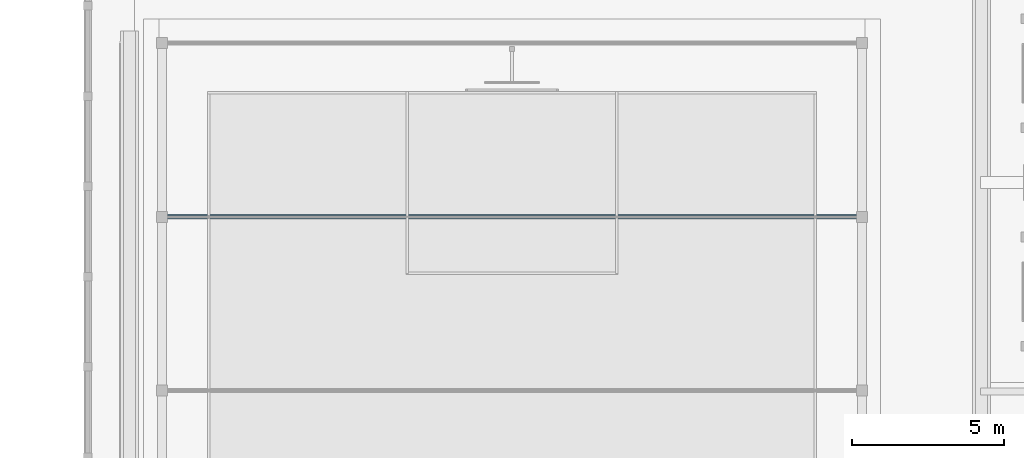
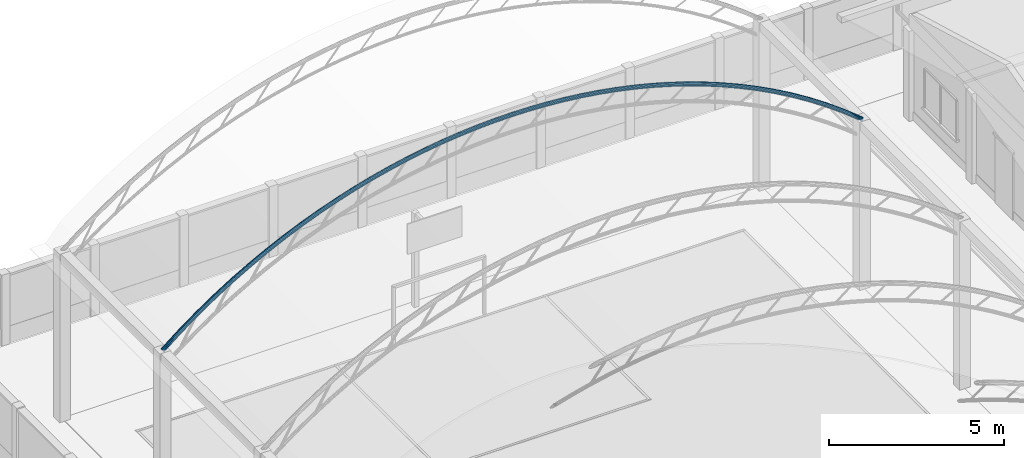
# One storey, part 30 of 177: 1 beam.
"""IFC4 building model written with IfcOpenShell, lengths in metres."""

from ifc_helpers import new_model, si_unit, origin, origin_with_axes, place, context, subcontext, project, spatial, triangles, element, save


model = new_model("IFC4")

# Units and contexts
model_context = context("Model", 3, precision=1e-05, world=origin_with_axes())
body_context = subcontext(model_context, "Body", "Model", "MODEL_VIEW")
ifc_project = project(units=[si_unit("LENGTHUNIT", "METRE"), si_unit("AREAUNIT", "SQUARE_METRE"), si_unit("VOLUMEUNIT", "CUBIC_METRE"), si_unit("PLANEANGLEUNIT", "RADIAN")], contexts=[model_context])

# Site, building, storey
site_placement = place(None, origin_with_axes())
site = spatial("IfcSite", under=ifc_project, at=site_placement, Name="Predio Los Mangos - Morales, San Martín", CompositionType="ELEMENT")
building_placement = place(site_placement, origin())
building = spatial("IfcBuilding", under=site, at=building_placement, Name="Hogar de Refugio Temporal", CompositionType="ELEMENT")
storey_placement = place(building_placement, origin())
storey = spatial("IfcBuildingStorey", under=building, at=storey_placement, Name="NIVEL 1 (NPT +0.00)", CompositionType="ELEMENT", Elevation=0.0)

# Beam
beam_placement = place(storey_placement, origin())
element("IfcBeam", 1, at=beam_placement, inside=storey, Name="arco", ObjectType="Viga", PredefinedType="BEAM", context=body_context, shape_type="Tessellation", body=[
    triangles([(3.4781, 121.3273, 5.9773), (3.462, 121.3017, 5.9973), (3.4562, 121.2667, 6.0046), (3.462, 121.2317, 5.9973), (3.4781, 121.206, 5.9773), (3.5, 121.1967, 5.95), (3.5219, 121.206, 5.9227), (3.538, 121.2317, 5.9027), (3.5438, 121.2667, 5.8954), (3.538, 121.3017, 5.9027), (3.5219, 121.3273, 5.9227), (3.5, 121.3367, 5.95), (4.0561, 121.3273, 6.4418), (4.0405, 121.3017, 6.4621), (4.0348, 121.2667, 6.4695), (4.0405, 121.2317, 6.4621), (4.0561, 121.206, 6.4418), (4.0775, 121.1967, 6.4141), (4.0989, 121.206, 6.3864), (4.1145, 121.2317, 6.3661), (4.1202, 121.2667, 6.3586), (4.1145, 121.3017, 6.3661), (4.0989, 121.3273, 6.3864), (4.0775, 121.3367, 6.4141), (4.6348, 121.3273, 6.8694), (4.6199, 121.3017, 6.8903), (4.6145, 121.2667, 6.8979), (4.6199, 121.2317, 6.8903), (4.6348, 121.206, 6.8694), (4.655, 121.1967, 6.8408), (4.6752, 121.206, 6.8123), (4.6901, 121.2317, 6.7914), (4.6955, 121.2667, 6.7837), (4.6901, 121.3017, 6.7914), (4.6752, 121.3273, 6.8123), (4.655, 121.3367, 6.8408), (5.2134, 121.3273, 7.2627), (5.1994, 121.3017, 7.2841), (5.1943, 121.2667, 7.292), (5.1994, 121.2317, 7.2841), (5.2134, 121.206, 7.2627), (5.2325, 121.1967, 7.2333), (5.2516, 121.206, 7.204), (5.2656, 121.2317, 7.1826), (5.2707, 121.2667, 7.1747), (5.2656, 121.3017, 7.1826), (5.2516, 121.3273, 7.204), (5.2325, 121.3367, 7.2333), (5.792, 121.3273, 7.6243), (5.7788, 121.3017, 7.6463), (5.774, 121.2667, 7.6543), (5.7788, 121.2317, 7.6463), (5.792, 121.206, 7.6243), (5.81, 121.1967, 7.5943), (5.828, 121.206, 7.5643), (5.8412, 121.2317, 7.5423), (5.846, 121.2667, 7.5343), (5.8412, 121.3017, 7.5423), (5.828, 121.3273, 7.5643), (5.81, 121.3367, 7.5943), (6.3706, 121.3273, 7.9565), (6.3583, 121.3017, 7.979), (6.3538, 121.2667, 7.9872), (6.3583, 121.2317, 7.979), (6.3706, 121.206, 7.9565), (6.3875, 121.1967, 7.9259), (6.4044, 121.206, 7.8952), (6.4167, 121.2317, 7.8727), (6.4212, 121.2667, 7.8645), (6.4167, 121.3017, 7.8727), (6.4044, 121.3273, 7.8952), (6.3875, 121.3367, 7.9259), (6.9493, 121.3273, 8.2611), (6.9377, 121.3017, 8.284), (6.9335, 121.2667, 8.2923), (6.9377, 121.2317, 8.284), (6.9493, 121.206, 8.2611), (6.965, 121.1967, 8.2298), (6.9807, 121.206, 8.1986), (6.9923, 121.2317, 8.1757), (6.9965, 121.2667, 8.1673), (6.9923, 121.3017, 8.1757), (6.9807, 121.3273, 8.1986), (6.965, 121.3367, 8.2298), (7.5279, 121.3273, 8.5395), (7.5172, 121.3017, 8.5628), (7.5133, 121.2667, 8.5713), (7.5172, 121.2317, 8.5628), (7.5279, 121.206, 8.5395), (7.5425, 121.1967, 8.5077), (7.5571, 121.206, 8.4759), (7.5678, 121.2317, 8.4527), (7.5717, 121.2667, 8.4441), (7.5678, 121.3017, 8.4527), (7.5571, 121.3273, 8.4759), (7.5425, 121.3367, 8.5077), (8.1065, 121.3273, 8.7932), (8.0966, 121.3017, 8.8169), (8.093, 121.2667, 8.8255), (8.0966, 121.2317, 8.8169), (8.1065, 121.206, 8.7932), (8.12, 121.1967, 8.7609), (8.1335, 121.206, 8.7286), (8.1434, 121.2317, 8.705), (8.147, 121.2667, 8.6963), (8.1434, 121.3017, 8.705), (8.1335, 121.3273, 8.7286), (8.12, 121.3367, 8.7609), (8.6851, 121.3273, 9.0232), (8.6761, 121.3017, 9.0472), (8.6728, 121.2667, 9.056), (8.6761, 121.2317, 9.0472), (8.6851, 121.206, 9.0232), (8.6975, 121.1967, 8.9905), (8.7099, 121.206, 8.9578), (8.7189, 121.2317, 8.9338), (8.7222, 121.2667, 8.925), (8.7189, 121.3017, 8.9338), (8.7099, 121.3273, 8.9578), (8.6975, 121.3367, 8.9905), (9.2638, 121.3273, 9.2305), (9.2555, 121.3017, 9.2548), (9.2525, 121.2667, 9.2637), (9.2555, 121.2317, 9.2548), (9.2638, 121.206, 9.2305), (9.275, 121.1967, 9.1974), (9.2862, 121.206, 9.1642), (9.2945, 121.2317, 9.14), (9.2975, 121.2667, 9.1311), (9.2945, 121.3017, 9.14), (9.2862, 121.3273, 9.1642), (9.275, 121.3367, 9.1974), (9.8424, 121.3273, 9.416), (9.835, 121.3017, 9.4405), (9.8323, 121.2667, 9.4495), (9.835, 121.2317, 9.4405), (9.8424, 121.206, 9.416), (9.8525, 121.1967, 9.3824), (9.8626, 121.206, 9.3489), (9.87, 121.2317, 9.3244), (9.8727, 121.2667, 9.3154), (9.87, 121.3017, 9.3244), (9.8626, 121.3273, 9.3489), (9.8525, 121.3367, 9.3824), (10.421, 121.3273, 9.5802), (10.4144, 121.3017, 9.6049), (10.412, 121.2667, 9.614), (10.4144, 121.2317, 9.6049), (10.421, 121.206, 9.5802), (10.43, 121.1967, 9.5463), (10.439, 121.206, 9.5125), (10.4456, 121.2317, 9.4878), (10.448, 121.2667, 9.4787), (10.4456, 121.3017, 9.4878), (10.439, 121.3273, 9.5125), (10.43, 121.3367, 9.5463), (10.9996, 121.3273, 9.7238), (10.9939, 121.3017, 9.7488), (10.9918, 121.2667, 9.7579), (10.9939, 121.2317, 9.7488), (10.9996, 121.206, 9.7238), (11.0075, 121.1967, 9.6897), (11.0154, 121.206, 9.6556), (11.0211, 121.2317, 9.6306), (11.0232, 121.2667, 9.6215), (11.0211, 121.3017, 9.6306), (11.0154, 121.3273, 9.6556), (11.0075, 121.3367, 9.6897), (11.5783, 121.3273, 9.8473), (11.5733, 121.3017, 9.8725), (11.5715, 121.2667, 9.8817), (11.5733, 121.2317, 9.8725), (11.5783, 121.206, 9.8473), (11.585, 121.1967, 9.813), (11.5917, 121.206, 9.7786), (11.5967, 121.2317, 9.7535), (11.5985, 121.2667, 9.7443), (11.5967, 121.3017, 9.7535), (11.5917, 121.3273, 9.7786), (11.585, 121.3367, 9.813), (12.1569, 121.3273, 9.9512), (12.1528, 121.3017, 9.9765), (12.1513, 121.2667, 9.9857), (12.1528, 121.2317, 9.9765), (12.1569, 121.206, 9.9512), (12.1625, 121.1967, 9.9166), (12.1681, 121.206, 9.8821), (12.1722, 121.2317, 9.8568), (12.1737, 121.2667, 9.8476), (12.1722, 121.3017, 9.8568), (12.1681, 121.3273, 9.8821), (12.1625, 121.3367, 9.9166), (12.7355, 121.3273, 10.0357), (12.7322, 121.3017, 10.0611), (12.731, 121.2667, 10.0704), (12.7322, 121.2317, 10.0611), (12.7355, 121.206, 10.0357), (12.74, 121.1967, 10.001), (12.7445, 121.206, 9.9663), (12.7478, 121.2317, 9.9409), (12.749, 121.2667, 9.9316), (12.7478, 121.3017, 9.9409), (12.7445, 121.3273, 9.9663), (12.74, 121.3367, 10.001), (13.3141, 121.3273, 10.1012), (13.3117, 121.3017, 10.1267), (13.3108, 121.2667, 10.136), (13.3117, 121.2317, 10.1267), (13.3141, 121.206, 10.1012), (13.3175, 121.1967, 10.0663), (13.3209, 121.206, 10.0315), (13.3233, 121.2317, 10.006), (13.3242, 121.2667, 9.9967), (13.3233, 121.3017, 10.006), (13.3209, 121.3273, 10.0315), (13.3175, 121.3367, 10.0663), (13.8928, 121.3273, 10.1478), (13.8911, 121.3017, 10.1734), (13.8905, 121.2667, 10.1827), (13.8911, 121.2317, 10.1734), (13.8928, 121.206, 10.1478), (13.895, 121.1967, 10.1129), (13.8972, 121.206, 10.0779), (13.8989, 121.2317, 10.0524), (13.8995, 121.2667, 10.043), (13.8989, 121.3017, 10.0524), (13.8972, 121.3273, 10.0779), (13.895, 121.3367, 10.1129), (14.4714, 121.3273, 10.1757), (14.4706, 121.3017, 10.2013), (14.4703, 121.2667, 10.2107), (14.4706, 121.2317, 10.2013), (14.4714, 121.206, 10.1757), (14.4725, 121.1967, 10.1407), (14.4736, 121.206, 10.1057), (14.4744, 121.2317, 10.0801), (14.4747, 121.2667, 10.0708), (14.4744, 121.3017, 10.0801), (14.4736, 121.3273, 10.1057), (14.4725, 121.3367, 10.1407), (15.05, 121.3273, 10.185), (15.05, 121.3017, 10.2106), (15.05, 121.2667, 10.22), (15.05, 121.2317, 10.2106), (15.05, 121.206, 10.185), (15.05, 121.1967, 10.15), (15.05, 121.206, 10.115), (15.05, 121.2317, 10.0894), (15.05, 121.2667, 10.08), (15.05, 121.3017, 10.0894), (15.05, 121.3273, 10.115), (15.05, 121.3367, 10.15), (15.6286, 121.3273, 10.1757), (15.6294, 121.3017, 10.2013), (15.6297, 121.2667, 10.2107), (15.6294, 121.2317, 10.2013), (15.6286, 121.206, 10.1757), (15.6275, 121.1967, 10.1407), (15.6264, 121.206, 10.1057), (15.6256, 121.2317, 10.0801), (15.6253, 121.2667, 10.0708), (15.6256, 121.3017, 10.0801), (15.6264, 121.3273, 10.1057), (15.6275, 121.3367, 10.1407), (16.2072, 121.3273, 10.1478), (16.2089, 121.3017, 10.1734), (16.2095, 121.2667, 10.1827), (16.2089, 121.2317, 10.1734), (16.2072, 121.206, 10.1478), (16.205, 121.1967, 10.1129), (16.2028, 121.206, 10.0779), (16.2011, 121.2317, 10.0524), (16.2005, 121.2667, 10.043), (16.2011, 121.3017, 10.0524), (16.2028, 121.3273, 10.0779), (16.205, 121.3367, 10.1129), (16.7859, 121.3273, 10.1012), (16.7883, 121.3017, 10.1267), (16.7892, 121.2667, 10.136), (16.7883, 121.2317, 10.1267), (16.7859, 121.206, 10.1012), (16.7825, 121.1967, 10.0663), (16.7791, 121.206, 10.0315), (16.7767, 121.2317, 10.006), (16.7758, 121.2667, 9.9967), (16.7767, 121.3017, 10.006), (16.7791, 121.3273, 10.0315), (16.7825, 121.3367, 10.0663), (17.3645, 121.3273, 10.0357), (17.3678, 121.3017, 10.0611), (17.369, 121.2667, 10.0704), (17.3678, 121.2317, 10.0611), (17.3645, 121.206, 10.0357), (17.36, 121.1967, 10.001), (17.3555, 121.206, 9.9663), (17.3522, 121.2317, 9.9409), (17.351, 121.2667, 9.9316), (17.3522, 121.3017, 9.9409), (17.3555, 121.3273, 9.9663), (17.36, 121.3367, 10.001), (17.9431, 121.3273, 9.9512), (17.9472, 121.3017, 9.9765), (17.9487, 121.2667, 9.9857), (17.9472, 121.2317, 9.9765), (17.9431, 121.206, 9.9512), (17.9375, 121.1967, 9.9166), (17.9319, 121.206, 9.8821), (17.9278, 121.2317, 9.8568), (17.9263, 121.2667, 9.8476), (17.9278, 121.3017, 9.8568), (17.9319, 121.3273, 9.8821), (17.9375, 121.3367, 9.9166), (18.5217, 121.3273, 9.8473), (18.5267, 121.3017, 9.8725), (18.5285, 121.2667, 9.8817), (18.5267, 121.2317, 9.8725), (18.5217, 121.206, 9.8473), (18.515, 121.1967, 9.813), (18.5083, 121.206, 9.7786), (18.5033, 121.2317, 9.7535), (18.5015, 121.2667, 9.7443), (18.5033, 121.3017, 9.7535), (18.5083, 121.3273, 9.7786), (18.515, 121.3367, 9.813), (19.1004, 121.3273, 9.7238), (19.1061, 121.3017, 9.7488), (19.1082, 121.2667, 9.7579), (19.1061, 121.2317, 9.7488), (19.1004, 121.206, 9.7238), (19.0925, 121.1967, 9.6897), (19.0846, 121.206, 9.6556), (19.0789, 121.2317, 9.6306), (19.0768, 121.2667, 9.6215), (19.0789, 121.3017, 9.6306), (19.0846, 121.3273, 9.6556), (19.0925, 121.3367, 9.6897), (19.679, 121.3273, 9.5802), (19.6856, 121.3017, 9.6049), (19.688, 121.2667, 9.614), (19.6856, 121.2317, 9.6049), (19.679, 121.206, 9.5802), (19.67, 121.1967, 9.5463), (19.661, 121.206, 9.5125), (19.6544, 121.2317, 9.4878), (19.652, 121.2667, 9.4787), (19.6544, 121.3017, 9.4878), (19.661, 121.3273, 9.5125), (19.67, 121.3367, 9.5463), (20.2576, 121.3273, 9.416), (20.265, 121.3017, 9.4405), (20.2677, 121.2667, 9.4495), (20.265, 121.2317, 9.4405), (20.2576, 121.206, 9.416), (20.2475, 121.1967, 9.3824), (20.2374, 121.206, 9.3489), (20.23, 121.2317, 9.3244), (20.2273, 121.2667, 9.3154), (20.23, 121.3017, 9.3244), (20.2374, 121.3273, 9.3489), (20.2475, 121.3367, 9.3824), (20.8362, 121.3273, 9.2305), (20.8445, 121.3017, 9.2548), (20.8475, 121.2667, 9.2637), (20.8445, 121.2317, 9.2548), (20.8362, 121.206, 9.2305), (20.825, 121.1967, 9.1974), (20.8138, 121.206, 9.1642), (20.8055, 121.2317, 9.14), (20.8025, 121.2667, 9.1311), (20.8055, 121.3017, 9.14), (20.8138, 121.3273, 9.1642), (20.825, 121.3367, 9.1974), (21.4149, 121.3273, 9.0232), (21.4239, 121.3017, 9.0472), (21.4272, 121.2667, 9.056), (21.4239, 121.2317, 9.0472), (21.4149, 121.206, 9.0232), (21.4025, 121.1967, 8.9905), (21.3901, 121.206, 8.9578), (21.3811, 121.2317, 8.9338), (21.3778, 121.2667, 8.925), (21.3811, 121.3017, 8.9338), (21.3901, 121.3273, 8.9578), (21.4025, 121.3367, 8.9905), (21.9935, 121.3273, 8.7932), (22.0034, 121.3017, 8.8169), (22.007, 121.2667, 8.8255), (22.0034, 121.2317, 8.8169), (21.9935, 121.206, 8.7932), (21.98, 121.1967, 8.7609), (21.9665, 121.206, 8.7286), (21.9566, 121.2317, 8.705), (21.953, 121.2667, 8.6963), (21.9566, 121.3017, 8.705), (21.9665, 121.3273, 8.7286), (21.98, 121.3367, 8.7609), (22.5721, 121.3273, 8.5395), (22.5828, 121.3017, 8.5628), (22.5867, 121.2667, 8.5713), (22.5828, 121.2317, 8.5628), (22.5721, 121.206, 8.5395), (22.5575, 121.1967, 8.5077), (22.5429, 121.206, 8.4759), (22.5322, 121.2317, 8.4527), (22.5283, 121.2667, 8.4441), (22.5322, 121.3017, 8.4527), (22.5429, 121.3273, 8.4759), (22.5575, 121.3367, 8.5077), (23.1507, 121.3273, 8.2611), (23.1623, 121.3017, 8.284), (23.1665, 121.2667, 8.2923), (23.1623, 121.2317, 8.284), (23.1507, 121.206, 8.2611), (23.135, 121.1967, 8.2298), (23.1193, 121.206, 8.1986), (23.1077, 121.2317, 8.1757), (23.1035, 121.2667, 8.1673), (23.1077, 121.3017, 8.1757), (23.1193, 121.3273, 8.1986), (23.135, 121.3367, 8.2298), (23.7294, 121.3273, 7.9565), (23.7417, 121.3017, 7.979), (23.7462, 121.2667, 7.9872), (23.7417, 121.2317, 7.979), (23.7294, 121.206, 7.9565), (23.7125, 121.1967, 7.9259), (23.6956, 121.206, 7.8952), (23.6833, 121.2317, 7.8727), (23.6788, 121.2667, 7.8645), (23.6833, 121.3017, 7.8727), (23.6956, 121.3273, 7.8952), (23.7125, 121.3367, 7.9259), (24.308, 121.3273, 7.6243), (24.3212, 121.3017, 7.6463), (24.326, 121.2667, 7.6543), (24.3212, 121.2317, 7.6463), (24.308, 121.206, 7.6243), (24.29, 121.1967, 7.5943), (24.272, 121.206, 7.5643), (24.2588, 121.2317, 7.5423), (24.254, 121.2667, 7.5343), (24.2588, 121.3017, 7.5423), (24.272, 121.3273, 7.5643), (24.29, 121.3367, 7.5943), (24.8866, 121.3273, 7.2627), (24.9006, 121.3017, 7.2841), (24.9057, 121.2667, 7.292), (24.9006, 121.2317, 7.2841), (24.8866, 121.206, 7.2627), (24.8675, 121.1967, 7.2333), (24.8484, 121.206, 7.204), (24.8344, 121.2317, 7.1826), (24.8293, 121.2667, 7.1747), (24.8344, 121.3017, 7.1826), (24.8484, 121.3273, 7.204), (24.8675, 121.3367, 7.2333), (25.4652, 121.3273, 6.8694), (25.4801, 121.3017, 6.8903), (25.4855, 121.2667, 6.8979), (25.4801, 121.2317, 6.8903), (25.4652, 121.206, 6.8694), (25.445, 121.1967, 6.8408), (25.4248, 121.206, 6.8123), (25.4099, 121.2317, 6.7914), (25.4045, 121.2667, 6.7837), (25.4099, 121.3017, 6.7914), (25.4248, 121.3273, 6.8123), (25.445, 121.3367, 6.8408), (26.0439, 121.3273, 6.4418), (26.0595, 121.3017, 6.4621), (26.0652, 121.2667, 6.4695), (26.0595, 121.2317, 6.4621), (26.0439, 121.206, 6.4418), (26.0225, 121.1967, 6.4141), (26.0011, 121.206, 6.3864), (25.9855, 121.2317, 6.3661), (25.9798, 121.2667, 6.3586), (25.9855, 121.3017, 6.3661), (26.0011, 121.3273, 6.3864), (26.0225, 121.3367, 6.4141), (26.6219, 121.3273, 5.9773), (26.638, 121.3017, 5.9973), (26.6438, 121.2667, 6.0046), (26.638, 121.2317, 5.9973), (26.6219, 121.206, 5.9773), (26.6, 121.1967, 5.95), (26.5781, 121.206, 5.9227), (26.562, 121.2317, 5.9027), (26.5562, 121.2667, 5.8954), (26.562, 121.3017, 5.9027), (26.5781, 121.3273, 5.9227), (26.6, 121.3367, 5.95)], [[1, 13, 24], [1, 24, 12], [2, 14, 13], [2, 13, 1], [3, 15, 14], [3, 14, 2], [4, 16, 15], [4, 15, 3], [5, 17, 16], [5, 16, 4], [6, 18, 17], [6, 17, 5], [7, 19, 18], [7, 18, 6], [8, 20, 19], [8, 19, 7], [9, 21, 20], [9, 20, 8], [10, 22, 21], [10, 21, 9], [11, 23, 22], [11, 22, 10], [12, 24, 23], [12, 23, 11], [13, 25, 36], [13, 36, 24], [14, 26, 25], [14, 25, 13], [15, 27, 26], [15, 26, 14], [16, 28, 27], [16, 27, 15], [17, 29, 28], [17, 28, 16], [18, 30, 29], [18, 29, 17], [19, 31, 30], [19, 30, 18], [20, 32, 31], [20, 31, 19], [21, 33, 32], [21, 32, 20], [22, 34, 33], [22, 33, 21], [23, 35, 34], [23, 34, 22], [24, 36, 35], [24, 35, 23], [25, 37, 48], [25, 48, 36], [26, 38, 37], [26, 37, 25], [27, 39, 38], [27, 38, 26], [28, 40, 39], [28, 39, 27], [29, 41, 40], [29, 40, 28], [30, 42, 41], [30, 41, 29], [31, 43, 42], [31, 42, 30], [32, 44, 43], [32, 43, 31], [33, 45, 44], [33, 44, 32], [34, 46, 45], [34, 45, 33], [35, 47, 46], [35, 46, 34], [36, 48, 47], [36, 47, 35], [37, 49, 60], [37, 60, 48], [38, 50, 49], [38, 49, 37], [39, 51, 50], [39, 50, 38], [40, 52, 51], [40, 51, 39], [41, 53, 52], [41, 52, 40], [42, 54, 53], [42, 53, 41], [43, 55, 54], [43, 54, 42], [44, 56, 55], [44, 55, 43], [45, 57, 56], [45, 56, 44], [46, 58, 57], [46, 57, 45], [47, 59, 58], [47, 58, 46], [48, 60, 59], [48, 59, 47], [49, 61, 72], [49, 72, 60], [50, 62, 61], [50, 61, 49], [51, 63, 62], [51, 62, 50], [52, 64, 63], [52, 63, 51], [53, 65, 64], [53, 64, 52], [54, 66, 65], [54, 65, 53], [55, 67, 66], [55, 66, 54], [56, 68, 67], [56, 67, 55], [57, 69, 68], [57, 68, 56], [58, 70, 69], [58, 69, 57], [59, 71, 70], [59, 70, 58], [60, 72, 71], [60, 71, 59], [61, 73, 84], [61, 84, 72], [62, 74, 73], [62, 73, 61], [63, 75, 74], [63, 74, 62], [64, 76, 75], [64, 75, 63], [65, 77, 76], [65, 76, 64], [66, 78, 77], [66, 77, 65], [67, 79, 78], [67, 78, 66], [68, 80, 79], [68, 79, 67], [69, 81, 80], [69, 80, 68], [70, 82, 81], [70, 81, 69], [71, 83, 82], [71, 82, 70], [72, 84, 83], [72, 83, 71], [73, 85, 96], [73, 96, 84], [74, 86, 85], [74, 85, 73], [75, 87, 86], [75, 86, 74], [76, 88, 87], [76, 87, 75], [77, 89, 88], [77, 88, 76], [78, 90, 89], [78, 89, 77], [79, 91, 90], [79, 90, 78], [80, 92, 91], [80, 91, 79], [81, 93, 92], [81, 92, 80], [82, 94, 93], [82, 93, 81], [83, 95, 94], [83, 94, 82], [84, 96, 95], [84, 95, 83], [85, 97, 108], [85, 108, 96], [86, 98, 97], [86, 97, 85], [87, 99, 98], [87, 98, 86], [88, 100, 99], [88, 99, 87], [89, 101, 100], [89, 100, 88], [90, 102, 101], [90, 101, 89], [91, 103, 102], [91, 102, 90], [92, 104, 103], [92, 103, 91], [93, 105, 104], [93, 104, 92], [94, 106, 105], [94, 105, 93], [95, 107, 106], [95, 106, 94], [96, 108, 107], [96, 107, 95], [97, 109, 120], [97, 120, 108], [98, 110, 109], [98, 109, 97], [99, 111, 110], [99, 110, 98], [100, 112, 111], [100, 111, 99], [101, 113, 112], [101, 112, 100], [102, 114, 113], [102, 113, 101], [103, 115, 114], [103, 114, 102], [104, 116, 115], [104, 115, 103], [105, 117, 116], [105, 116, 104], [106, 118, 117], [106, 117, 105], [107, 119, 118], [107, 118, 106], [108, 120, 119], [108, 119, 107], [109, 121, 132], [109, 132, 120], [110, 122, 121], [110, 121, 109], [111, 123, 122], [111, 122, 110], [112, 124, 123], [112, 123, 111], [113, 125, 124], [113, 124, 112], [114, 126, 125], [114, 125, 113], [115, 127, 126], [115, 126, 114], [116, 128, 127], [116, 127, 115], [117, 129, 128], [117, 128, 116], [118, 130, 129], [118, 129, 117], [119, 131, 130], [119, 130, 118], [120, 132, 131], [120, 131, 119], [121, 133, 144], [121, 144, 132], [122, 134, 133], [122, 133, 121], [123, 135, 134], [123, 134, 122], [124, 136, 135], [124, 135, 123], [125, 137, 136], [125, 136, 124], [126, 138, 137], [126, 137, 125], [127, 139, 138], [127, 138, 126], [128, 140, 139], [128, 139, 127], [129, 141, 140], [129, 140, 128], [130, 142, 141], [130, 141, 129], [131, 143, 142], [131, 142, 130], [132, 144, 143], [132, 143, 131], [133, 145, 156], [133, 156, 144], [134, 146, 145], [134, 145, 133], [135, 147, 146], [135, 146, 134], [136, 148, 147], [136, 147, 135], [137, 149, 148], [137, 148, 136], [138, 150, 149], [138, 149, 137], [139, 151, 150], [139, 150, 138], [140, 152, 151], [140, 151, 139], [141, 153, 152], [141, 152, 140], [142, 154, 153], [142, 153, 141], [143, 155, 154], [143, 154, 142], [144, 156, 155], [144, 155, 143], [145, 157, 168], [145, 168, 156], [146, 158, 157], [146, 157, 145], [147, 159, 158], [147, 158, 146], [148, 160, 159], [148, 159, 147], [149, 161, 160], [149, 160, 148], [150, 162, 161], [150, 161, 149], [151, 163, 162], [151, 162, 150], [152, 164, 163], [152, 163, 151], [153, 165, 164], [153, 164, 152], [154, 166, 165], [154, 165, 153], [155, 167, 166], [155, 166, 154], [156, 168, 167], [156, 167, 155], [157, 169, 180], [157, 180, 168], [158, 170, 169], [158, 169, 157], [159, 171, 170], [159, 170, 158], [160, 172, 171], [160, 171, 159], [161, 173, 172], [161, 172, 160], [162, 174, 173], [162, 173, 161], [163, 175, 174], [163, 174, 162], [164, 176, 175], [164, 175, 163], [165, 177, 176], [165, 176, 164], [166, 178, 177], [166, 177, 165], [167, 179, 178], [167, 178, 166], [168, 180, 179], [168, 179, 167], [169, 181, 192], [169, 192, 180], [170, 182, 181], [170, 181, 169], [171, 183, 182], [171, 182, 170], [172, 184, 183], [172, 183, 171], [173, 185, 184], [173, 184, 172], [174, 186, 185], [174, 185, 173], [175, 187, 186], [175, 186, 174], [176, 188, 187], [176, 187, 175], [177, 189, 188], [177, 188, 176], [178, 190, 189], [178, 189, 177], [179, 191, 190], [179, 190, 178], [180, 192, 191], [180, 191, 179], [181, 193, 204], [181, 204, 192], [182, 194, 193], [182, 193, 181], [183, 195, 194], [183, 194, 182], [184, 196, 195], [184, 195, 183], [185, 197, 196], [185, 196, 184], [186, 198, 197], [186, 197, 185], [187, 199, 198], [187, 198, 186], [188, 200, 199], [188, 199, 187], [189, 201, 200], [189, 200, 188], [190, 202, 201], [190, 201, 189], [191, 203, 202], [191, 202, 190], [192, 204, 203], [192, 203, 191], [193, 205, 216], [193, 216, 204], [194, 206, 205], [194, 205, 193], [195, 207, 206], [195, 206, 194], [196, 208, 207], [196, 207, 195], [197, 209, 208], [197, 208, 196], [198, 210, 209], [198, 209, 197], [199, 211, 210], [199, 210, 198], [200, 212, 211], [200, 211, 199], [201, 213, 212], [201, 212, 200], [202, 214, 213], [202, 213, 201], [203, 215, 214], [203, 214, 202], [204, 216, 215], [204, 215, 203], [205, 217, 228], [205, 228, 216], [206, 218, 217], [206, 217, 205], [207, 219, 218], [207, 218, 206], [208, 220, 219], [208, 219, 207], [209, 221, 220], [209, 220, 208], [210, 222, 221], [210, 221, 209], [211, 223, 222], [211, 222, 210], [212, 224, 223], [212, 223, 211], [213, 225, 224], [213, 224, 212], [214, 226, 225], [214, 225, 213], [215, 227, 226], [215, 226, 214], [216, 228, 227], [216, 227, 215], [217, 229, 240], [217, 240, 228], [218, 230, 229], [218, 229, 217], [219, 231, 230], [219, 230, 218], [220, 232, 231], [220, 231, 219], [221, 233, 232], [221, 232, 220], [222, 234, 233], [222, 233, 221], [223, 235, 234], [223, 234, 222], [224, 236, 235], [224, 235, 223], [225, 237, 236], [225, 236, 224], [226, 238, 237], [226, 237, 225], [227, 239, 238], [227, 238, 226], [228, 240, 239], [228, 239, 227], [229, 241, 252], [229, 252, 240], [230, 242, 241], [230, 241, 229], [231, 243, 242], [231, 242, 230], [232, 244, 243], [232, 243, 231], [233, 245, 244], [233, 244, 232], [234, 246, 245], [234, 245, 233], [235, 247, 246], [235, 246, 234], [236, 248, 247], [236, 247, 235], [237, 249, 248], [237, 248, 236], [238, 250, 249], [238, 249, 237], [239, 251, 250], [239, 250, 238], [240, 252, 251], [240, 251, 239], [241, 253, 264], [241, 264, 252], [242, 254, 253], [242, 253, 241], [243, 255, 254], [243, 254, 242], [244, 256, 255], [244, 255, 243], [245, 257, 256], [245, 256, 244], [246, 258, 257], [246, 257, 245], [247, 259, 258], [247, 258, 246], [248, 260, 259], [248, 259, 247], [249, 261, 260], [249, 260, 248], [250, 262, 261], [250, 261, 249], [251, 263, 262], [251, 262, 250], [252, 264, 263], [252, 263, 251], [253, 265, 276], [253, 276, 264], [254, 266, 265], [254, 265, 253], [255, 267, 266], [255, 266, 254], [256, 268, 267], [256, 267, 255], [257, 269, 268], [257, 268, 256], [258, 270, 269], [258, 269, 257], [259, 271, 270], [259, 270, 258], [260, 272, 271], [260, 271, 259], [261, 273, 272], [261, 272, 260], [262, 274, 273], [262, 273, 261], [263, 275, 274], [263, 274, 262], [264, 276, 275], [264, 275, 263], [265, 277, 288], [265, 288, 276], [266, 278, 277], [266, 277, 265], [267, 279, 278], [267, 278, 266], [268, 280, 279], [268, 279, 267], [269, 281, 280], [269, 280, 268], [270, 282, 281], [270, 281, 269], [271, 283, 282], [271, 282, 270], [272, 284, 283], [272, 283, 271], [273, 285, 284], [273, 284, 272], [274, 286, 285], [274, 285, 273], [275, 287, 286], [275, 286, 274], [276, 288, 287], [276, 287, 275], [277, 289, 300], [277, 300, 288], [278, 290, 289], [278, 289, 277], [279, 291, 290], [279, 290, 278], [280, 292, 291], [280, 291, 279], [281, 293, 292], [281, 292, 280], [282, 294, 293], [282, 293, 281], [283, 295, 294], [283, 294, 282], [284, 296, 295], [284, 295, 283], [285, 297, 296], [285, 296, 284], [286, 298, 297], [286, 297, 285], [287, 299, 298], [287, 298, 286], [288, 300, 299], [288, 299, 287], [289, 301, 312], [289, 312, 300], [290, 302, 301], [290, 301, 289], [291, 303, 302], [291, 302, 290], [292, 304, 303], [292, 303, 291], [293, 305, 304], [293, 304, 292], [294, 306, 305], [294, 305, 293], [295, 307, 306], [295, 306, 294], [296, 308, 307], [296, 307, 295], [297, 309, 308], [297, 308, 296], [298, 310, 309], [298, 309, 297], [299, 311, 310], [299, 310, 298], [300, 312, 311], [300, 311, 299], [301, 313, 324], [301, 324, 312], [302, 314, 313], [302, 313, 301], [303, 315, 314], [303, 314, 302], [304, 316, 315], [304, 315, 303], [305, 317, 316], [305, 316, 304], [306, 318, 317], [306, 317, 305], [307, 319, 318], [307, 318, 306], [308, 320, 319], [308, 319, 307], [309, 321, 320], [309, 320, 308], [310, 322, 321], [310, 321, 309], [311, 323, 322], [311, 322, 310], [312, 324, 323], [312, 323, 311], [313, 325, 336], [313, 336, 324], [314, 326, 325], [314, 325, 313], [315, 327, 326], [315, 326, 314], [316, 328, 327], [316, 327, 315], [317, 329, 328], [317, 328, 316], [318, 330, 329], [318, 329, 317], [319, 331, 330], [319, 330, 318], [320, 332, 331], [320, 331, 319], [321, 333, 332], [321, 332, 320], [322, 334, 333], [322, 333, 321], [323, 335, 334], [323, 334, 322], [324, 336, 335], [324, 335, 323], [325, 337, 348], [325, 348, 336], [326, 338, 337], [326, 337, 325], [327, 339, 338], [327, 338, 326], [328, 340, 339], [328, 339, 327], [329, 341, 340], [329, 340, 328], [330, 342, 341], [330, 341, 329], [331, 343, 342], [331, 342, 330], [332, 344, 343], [332, 343, 331], [333, 345, 344], [333, 344, 332], [334, 346, 345], [334, 345, 333], [335, 347, 346], [335, 346, 334], [336, 348, 347], [336, 347, 335], [337, 349, 360], [337, 360, 348], [338, 350, 349], [338, 349, 337], [339, 351, 350], [339, 350, 338], [340, 352, 351], [340, 351, 339], [341, 353, 352], [341, 352, 340], [342, 354, 353], [342, 353, 341], [343, 355, 354], [343, 354, 342], [344, 356, 355], [344, 355, 343], [345, 357, 356], [345, 356, 344], [346, 358, 357], [346, 357, 345], [347, 359, 358], [347, 358, 346], [348, 360, 359], [348, 359, 347], [349, 361, 372], [349, 372, 360], [350, 362, 361], [350, 361, 349], [351, 363, 362], [351, 362, 350], [352, 364, 363], [352, 363, 351], [353, 365, 364], [353, 364, 352], [354, 366, 365], [354, 365, 353], [355, 367, 366], [355, 366, 354], [356, 368, 367], [356, 367, 355], [357, 369, 368], [357, 368, 356], [358, 370, 369], [358, 369, 357], [359, 371, 370], [359, 370, 358], [360, 372, 371], [360, 371, 359], [361, 373, 384], [361, 384, 372], [362, 374, 373], [362, 373, 361], [363, 375, 374], [363, 374, 362], [364, 376, 375], [364, 375, 363], [365, 377, 376], [365, 376, 364], [366, 378, 377], [366, 377, 365], [367, 379, 378], [367, 378, 366], [368, 380, 379], [368, 379, 367], [369, 381, 380], [369, 380, 368], [370, 382, 381], [370, 381, 369], [371, 383, 382], [371, 382, 370], [372, 384, 383], [372, 383, 371], [373, 385, 396], [373, 396, 384], [374, 386, 385], [374, 385, 373], [375, 387, 386], [375, 386, 374], [376, 388, 387], [376, 387, 375], [377, 389, 388], [377, 388, 376], [378, 390, 389], [378, 389, 377], [379, 391, 390], [379, 390, 378], [380, 392, 391], [380, 391, 379], [381, 393, 392], [381, 392, 380], [382, 394, 393], [382, 393, 381], [383, 395, 394], [383, 394, 382], [384, 396, 395], [384, 395, 383], [385, 397, 408], [385, 408, 396], [386, 398, 397], [386, 397, 385], [387, 399, 398], [387, 398, 386], [388, 400, 399], [388, 399, 387], [389, 401, 400], [389, 400, 388], [390, 402, 401], [390, 401, 389], [391, 403, 402], [391, 402, 390], [392, 404, 403], [392, 403, 391], [393, 405, 404], [393, 404, 392], [394, 406, 405], [394, 405, 393], [395, 407, 406], [395, 406, 394], [396, 408, 407], [396, 407, 395], [397, 409, 420], [397, 420, 408], [398, 410, 409], [398, 409, 397], [399, 411, 410], [399, 410, 398], [400, 412, 411], [400, 411, 399], [401, 413, 412], [401, 412, 400], [402, 414, 413], [402, 413, 401], [403, 415, 414], [403, 414, 402], [404, 416, 415], [404, 415, 403], [405, 417, 416], [405, 416, 404], [406, 418, 417], [406, 417, 405], [407, 419, 418], [407, 418, 406], [408, 420, 419], [408, 419, 407], [409, 421, 432], [409, 432, 420], [410, 422, 421], [410, 421, 409], [411, 423, 422], [411, 422, 410], [412, 424, 423], [412, 423, 411], [413, 425, 424], [413, 424, 412], [414, 426, 425], [414, 425, 413], [415, 427, 426], [415, 426, 414], [416, 428, 427], [416, 427, 415], [417, 429, 428], [417, 428, 416], [418, 430, 429], [418, 429, 417], [419, 431, 430], [419, 430, 418], [420, 432, 431], [420, 431, 419], [421, 433, 444], [421, 444, 432], [422, 434, 433], [422, 433, 421], [423, 435, 434], [423, 434, 422], [424, 436, 435], [424, 435, 423], [425, 437, 436], [425, 436, 424], [426, 438, 437], [426, 437, 425], [427, 439, 438], [427, 438, 426], [428, 440, 439], [428, 439, 427], [429, 441, 440], [429, 440, 428], [430, 442, 441], [430, 441, 429], [431, 443, 442], [431, 442, 430], [432, 444, 443], [432, 443, 431], [433, 445, 456], [433, 456, 444], [434, 446, 445], [434, 445, 433], [435, 447, 446], [435, 446, 434], [436, 448, 447], [436, 447, 435], [437, 449, 448], [437, 448, 436], [438, 450, 449], [438, 449, 437], [439, 451, 450], [439, 450, 438], [440, 452, 451], [440, 451, 439], [441, 453, 452], [441, 452, 440], [442, 454, 453], [442, 453, 441], [443, 455, 454], [443, 454, 442], [444, 456, 455], [444, 455, 443], [445, 457, 468], [445, 468, 456], [446, 458, 457], [446, 457, 445], [447, 459, 458], [447, 458, 446], [448, 460, 459], [448, 459, 447], [449, 461, 460], [449, 460, 448], [450, 462, 461], [450, 461, 449], [451, 463, 462], [451, 462, 450], [452, 464, 463], [452, 463, 451], [453, 465, 464], [453, 464, 452], [454, 466, 465], [454, 465, 453], [455, 467, 466], [455, 466, 454], [456, 468, 467], [456, 467, 455], [457, 469, 480], [457, 480, 468], [458, 470, 469], [458, 469, 457], [459, 471, 470], [459, 470, 458], [460, 472, 471], [460, 471, 459], [461, 473, 472], [461, 472, 460], [462, 474, 473], [462, 473, 461], [463, 475, 474], [463, 474, 462], [464, 476, 475], [464, 475, 463], [465, 477, 476], [465, 476, 464], [466, 478, 477], [466, 477, 465], [467, 479, 478], [467, 478, 466], [468, 480, 479], [468, 479, 467], [469, 481, 492], [469, 492, 480], [470, 482, 481], [470, 481, 469], [471, 483, 482], [471, 482, 470], [472, 484, 483], [472, 483, 471], [473, 485, 484], [473, 484, 472], [474, 486, 485], [474, 485, 473], [475, 487, 486], [475, 486, 474], [476, 488, 487], [476, 487, 475], [477, 489, 488], [477, 488, 476], [478, 490, 489], [478, 489, 477], [479, 491, 490], [479, 490, 478], [480, 492, 491], [480, 491, 479]]),
])

save(model, "model.ifc")
